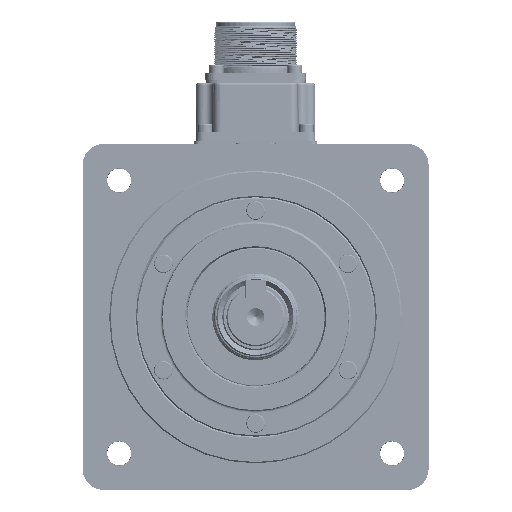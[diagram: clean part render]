
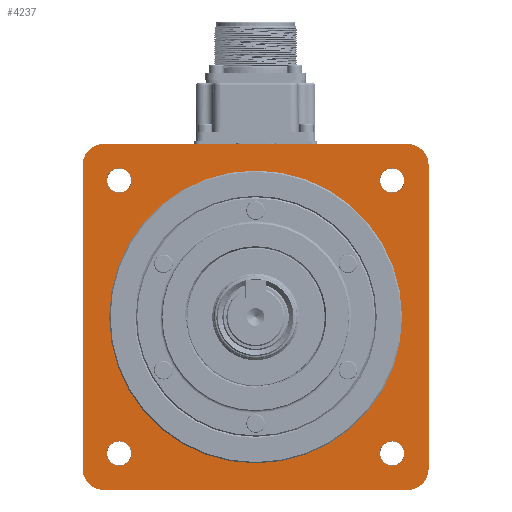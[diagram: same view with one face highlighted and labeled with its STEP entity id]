
A CAD part, front view. The second image highlights one B-rep face of the part: STEP entity #4237.
In plain terms, the highlighted planar face has unit normal (0, -1, 0).
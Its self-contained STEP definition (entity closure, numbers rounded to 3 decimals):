
#4237 = ADVANCED_FACE( '', ( #10026, #10027, #10028, #10029, #10030, #10031 ), #10032, .F. );
#10026 = FACE_BOUND( '', #20976, .T. );
#10027 = FACE_OUTER_BOUND( '', #20977, .T. );
#10028 = FACE_BOUND( '', #20978, .T. );
#10029 = FACE_BOUND( '', #20979, .T. );
#10030 = FACE_BOUND( '', #20980, .T. );
#10031 = FACE_BOUND( '', #20981, .T. );
#10032 = PLANE( '', #20982 );
#20976 = EDGE_LOOP( '', ( #43709 ) );
#20977 = EDGE_LOOP( '', ( #43710, #43711, #43712, #43713, #43714, #43715, #43716, #43717 ) );
#20978 = EDGE_LOOP( '', ( #43718 ) );
#20979 = EDGE_LOOP( '', ( #43719 ) );
#20980 = EDGE_LOOP( '', ( #43720 ) );
#20981 = EDGE_LOOP( '', ( #43721 ) );
#20982 = AXIS2_PLACEMENT_3D( '', #43722, #43723, #43724 );
#43709 = ORIENTED_EDGE( '', *, *, #65940, .F. );
#43710 = ORIENTED_EDGE( '', *, *, #65941, .F. );
#43711 = ORIENTED_EDGE( '', *, *, #65942, .T. );
#43712 = ORIENTED_EDGE( '', *, *, #65943, .F. );
#43713 = ORIENTED_EDGE( '', *, *, #65944, .T. );
#43714 = ORIENTED_EDGE( '', *, *, #65945, .F. );
#43715 = ORIENTED_EDGE( '', *, *, #65946, .T. );
#43716 = ORIENTED_EDGE( '', *, *, #65947, .F. );
#43717 = ORIENTED_EDGE( '', *, *, #65948, .T. );
#43718 = ORIENTED_EDGE( '', *, *, #65949, .F. );
#43719 = ORIENTED_EDGE( '', *, *, #65950, .F. );
#43720 = ORIENTED_EDGE( '', *, *, #65951, .F. );
#43721 = ORIENTED_EDGE( '', *, *, #65952, .F. );
#43722 = CARTESIAN_POINT( '', ( 0., 1.2, 55. ) );
#43723 = DIRECTION( '', ( 0., 1., 0. ) );
#43724 = DIRECTION( '', ( 0., 0., 1. ) );
#65940 = EDGE_CURVE( '', #75783, #75783, #75784, .T. );
#65941 = EDGE_CURVE( '', #75785, #75786, #75787, .F. );
#65942 = EDGE_CURVE( '', #75785, #75788, #75789, .T. );
#65943 = EDGE_CURVE( '', #75790, #75788, #75791, .F. );
#65944 = EDGE_CURVE( '', #75790, #75792, #75793, .T. );
#65945 = EDGE_CURVE( '', #75794, #75792, #75795, .F. );
#65946 = EDGE_CURVE( '', #75794, #75796, #75797, .T. );
#65947 = EDGE_CURVE( '', #75798, #75796, #75799, .F. );
#65948 = EDGE_CURVE( '', #75798, #75786, #75800, .T. );
#65949 = EDGE_CURVE( '', #75801, #75801, #75802, .F. );
#65950 = EDGE_CURVE( '', #75803, #75803, #75804, .F. );
#65951 = EDGE_CURVE( '', #75805, #75805, #75806, .F. );
#65952 = EDGE_CURVE( '', #75807, #75807, #75808, .F. );
#75783 = VERTEX_POINT( '', #91609 );
#75784 = CIRCLE( '', #91610, 55. );
#75785 = VERTEX_POINT( '', #91611 );
#75786 = VERTEX_POINT( '', #91612 );
#75787 = CIRCLE( '', #91613, 8. );
#75788 = VERTEX_POINT( '', #91614 );
#75789 = LINE( '', #91615, #91616 );
#75790 = VERTEX_POINT( '', #91617 );
#75791 = CIRCLE( '', #91618, 8. );
#75792 = VERTEX_POINT( '', #91619 );
#75793 = LINE( '', #91620, #91621 );
#75794 = VERTEX_POINT( '', #91622 );
#75795 = CIRCLE( '', #91623, 8. );
#75796 = VERTEX_POINT( '', #91624 );
#75797 = LINE( '', #91625, #91626 );
#75798 = VERTEX_POINT( '', #91627 );
#75799 = CIRCLE( '', #91628, 8. );
#75800 = LINE( '', #91629, #91630 );
#75801 = VERTEX_POINT( '', #91631 );
#75802 = CIRCLE( '', #91632, 4.6 );
#75803 = VERTEX_POINT( '', #91633 );
#75804 = CIRCLE( '', #91634, 4.6 );
#75805 = VERTEX_POINT( '', #91635 );
#75806 = CIRCLE( '', #91636, 4.6 );
#75807 = VERTEX_POINT( '', #91637 );
#75808 = CIRCLE( '', #91638, 4.6 );
#91609 = CARTESIAN_POINT( '', ( 0., 1.2, -55. ) );
#91610 = AXIS2_PLACEMENT_3D( '', #115914, #115915, #115916 );
#91611 = CARTESIAN_POINT( '', ( -65., 1.2, 57. ) );
#91612 = CARTESIAN_POINT( '', ( -57., 1.2, 65. ) );
#91613 = AXIS2_PLACEMENT_3D( '', #115917, #115918, #115919 );
#91614 = CARTESIAN_POINT( '', ( -65., 1.2, -57. ) );
#91615 = CARTESIAN_POINT( '', ( -65., 1.2, 65. ) );
#91616 = VECTOR( '', #115920, 1000. );
#91617 = CARTESIAN_POINT( '', ( -57., 1.2, -65. ) );
#91618 = AXIS2_PLACEMENT_3D( '', #115921, #115922, #115923 );
#91619 = CARTESIAN_POINT( '', ( 57., 1.2, -65. ) );
#91620 = CARTESIAN_POINT( '', ( -65., 1.2, -65. ) );
#91621 = VECTOR( '', #115924, 1000. );
#91622 = CARTESIAN_POINT( '', ( 65., 1.2, -57. ) );
#91623 = AXIS2_PLACEMENT_3D( '', #115925, #115926, #115927 );
#91624 = CARTESIAN_POINT( '', ( 65., 1.2, 57. ) );
#91625 = CARTESIAN_POINT( '', ( 65., 1.2, -65. ) );
#91626 = VECTOR( '', #115928, 1000. );
#91627 = CARTESIAN_POINT( '', ( 57., 1.2, 65. ) );
#91628 = AXIS2_PLACEMENT_3D( '', #115929, #115930, #115931 );
#91629 = CARTESIAN_POINT( '', ( 65., 1.2, 65. ) );
#91630 = VECTOR( '', #115932, 1000. );
#91631 = CARTESIAN_POINT( '', ( -51.265, 1.2, 55.866 ) );
#91632 = AXIS2_PLACEMENT_3D( '', #115933, #115934, #115935 );
#91633 = CARTESIAN_POINT( '', ( -51.265, 1.2, -46.665 ) );
#91634 = AXIS2_PLACEMENT_3D( '', #115936, #115937, #115938 );
#91635 = CARTESIAN_POINT( '', ( 51.265, 1.2, -46.665 ) );
#91636 = AXIS2_PLACEMENT_3D( '', #115939, #115940, #115941 );
#91637 = CARTESIAN_POINT( '', ( 51.265, 1.2, 55.866 ) );
#91638 = AXIS2_PLACEMENT_3D( '', #115942, #115943, #115944 );
#115914 = CARTESIAN_POINT( '', ( 0., 1.2, 0. ) );
#115915 = DIRECTION( '', ( 0., -1., 0. ) );
#115916 = DIRECTION( '', ( 0., 0., -1. ) );
#115917 = CARTESIAN_POINT( '', ( -57., 1.2, 57. ) );
#115918 = DIRECTION( '', ( 0., -1., 0. ) );
#115919 = DIRECTION( '', ( 0., 0., -1. ) );
#115920 = DIRECTION( '', ( 0., 0., -1. ) );
#115921 = CARTESIAN_POINT( '', ( -57., 1.2, -57. ) );
#115922 = DIRECTION( '', ( 0., -1., 0. ) );
#115923 = DIRECTION( '', ( 0., 0., -1. ) );
#115924 = DIRECTION( '', ( 1., 0., 0. ) );
#115925 = CARTESIAN_POINT( '', ( 57., 1.2, -57. ) );
#115926 = DIRECTION( '', ( 0., -1., 0. ) );
#115927 = DIRECTION( '', ( 0., 0., -1. ) );
#115928 = DIRECTION( '', ( 0., 0., 1. ) );
#115929 = CARTESIAN_POINT( '', ( 57., 1.2, 57. ) );
#115930 = DIRECTION( '', ( 0., -1., 0. ) );
#115931 = DIRECTION( '', ( 0., 0., -1. ) );
#115932 = DIRECTION( '', ( -1., 0., 0. ) );
#115933 = CARTESIAN_POINT( '', ( -51.265, 1.2, 51.265 ) );
#115934 = DIRECTION( '', ( 0., 1., 0. ) );
#115935 = DIRECTION( '', ( 0., 0., 1. ) );
#115936 = CARTESIAN_POINT( '', ( -51.265, 1.2, -51.265 ) );
#115937 = DIRECTION( '', ( 0., 1., 0. ) );
#115938 = DIRECTION( '', ( 0., 0., 1. ) );
#115939 = CARTESIAN_POINT( '', ( 51.265, 1.2, -51.265 ) );
#115940 = DIRECTION( '', ( 0., 1., 0. ) );
#115941 = DIRECTION( '', ( 0., 0., 1. ) );
#115942 = CARTESIAN_POINT( '', ( 51.265, 1.2, 51.265 ) );
#115943 = DIRECTION( '', ( 0., 1., 0. ) );
#115944 = DIRECTION( '', ( 0., 0., 1. ) );
